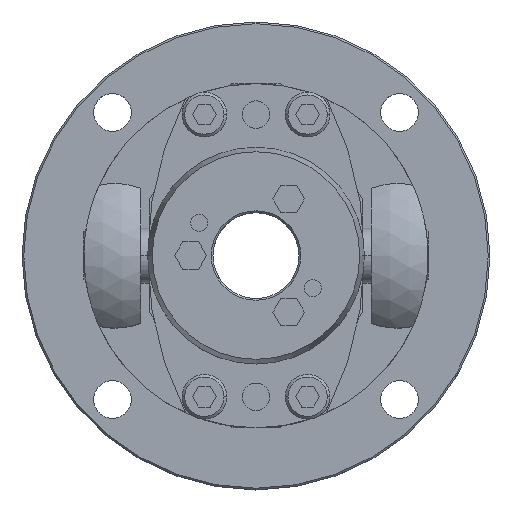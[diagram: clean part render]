
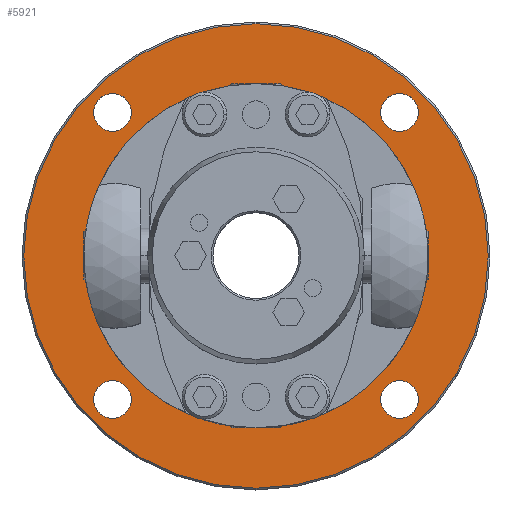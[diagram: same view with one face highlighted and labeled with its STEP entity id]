
A CAD part, top view. The second image highlights one B-rep face of the part: STEP entity #5921.
In plain terms, the highlighted planar face has unit normal (0, 0, 1).
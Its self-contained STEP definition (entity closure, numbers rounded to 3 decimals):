
#1040=CARTESIAN_POINT('',(0.,50.,-20.0));
#1041=VERTEX_POINT('',#1040);
#1157=CARTESIAN_POINT('',(0.,-50.,-20.0));
#1158=VERTEX_POINT('',#1157);
#1165=CARTESIAN_POINT('',(0.0,0.,-20.0));
#1166=DIRECTION('',(0.0,0.0,-1.0));
#1167=DIRECTION('',(0.0,1.0,0.0));
#1168=AXIS2_PLACEMENT_3D('',#1165,#1166,#1167);
#1169=CIRCLE('',#1168,50.0);
#1170=EDGE_CURVE('',#1041,#1158,#1169,.T.);
#1357=CARTESIAN_POINT('',(-41.719,47.219,-20.0));
#1358=VERTEX_POINT('',#1357);
#1367=CARTESIAN_POINT('',(-41.719,36.219,-20.0));
#1368=VERTEX_POINT('',#1367);
#1369=CARTESIAN_POINT('',(-41.719,41.719,-20.0));
#1370=DIRECTION('',(0.0,0.0,-1.0));
#1371=DIRECTION('',(0.0,1.0,0.0));
#1372=AXIS2_PLACEMENT_3D('',#1369,#1370,#1371);
#1373=CIRCLE('',#1372,5.5);
#1374=EDGE_CURVE('',#1368,#1358,#1373,.T.);
#1399=CARTESIAN_POINT('',(-41.719,-36.219,-20.0));
#1400=VERTEX_POINT('',#1399);
#1409=CARTESIAN_POINT('',(-41.719,-47.219,-20.0));
#1410=VERTEX_POINT('',#1409);
#1411=CARTESIAN_POINT('',(-41.719,-41.719,-20.0));
#1412=DIRECTION('',(0.0,0.0,-1.0));
#1413=DIRECTION('',(0.0,1.0,0.0));
#1414=AXIS2_PLACEMENT_3D('',#1411,#1412,#1413);
#1415=CIRCLE('',#1414,5.5);
#1416=EDGE_CURVE('',#1410,#1400,#1415,.T.);
#1441=CARTESIAN_POINT('',(41.719,-36.219,-20.0));
#1442=VERTEX_POINT('',#1441);
#1451=CARTESIAN_POINT('',(41.719,-47.219,-20.0));
#1452=VERTEX_POINT('',#1451);
#1453=CARTESIAN_POINT('',(41.719,-41.719,-20.0));
#1454=DIRECTION('',(0.0,0.0,-1.0));
#1455=DIRECTION('',(0.0,1.0,0.0));
#1456=AXIS2_PLACEMENT_3D('',#1453,#1454,#1455);
#1457=CIRCLE('',#1456,5.5);
#1458=EDGE_CURVE('',#1452,#1442,#1457,.T.);
#1483=CARTESIAN_POINT('',(41.719,47.219,-20.0));
#1484=VERTEX_POINT('',#1483);
#1493=CARTESIAN_POINT('',(41.719,36.219,-20.0));
#1494=VERTEX_POINT('',#1493);
#1495=CARTESIAN_POINT('',(41.719,41.719,-20.0));
#1496=DIRECTION('',(0.0,0.0,-1.0));
#1497=DIRECTION('',(0.0,1.0,0.0));
#1498=AXIS2_PLACEMENT_3D('',#1495,#1496,#1497);
#1499=CIRCLE('',#1498,5.5);
#1500=EDGE_CURVE('',#1494,#1484,#1499,.T.);
#2105=CARTESIAN_POINT('',(0.,-67.5,-20.0));
#2106=VERTEX_POINT('',#2105);
#2115=CARTESIAN_POINT('',(0.,67.5,-20.0));
#2116=VERTEX_POINT('',#2115);
#2117=CARTESIAN_POINT('',(0.0,0.,-20.0));
#2118=DIRECTION('',(0.0,0.0,-1.0));
#2119=DIRECTION('',(0.0,-1.0,0.0));
#2120=AXIS2_PLACEMENT_3D('',#2117,#2118,#2119);
#2121=CIRCLE('',#2120,67.5);
#2122=EDGE_CURVE('',#2106,#2116,#2121,.T.);
#5852=CARTESIAN_POINT('',(0.0,0.,-20.0));
#5853=DIRECTION('',(0.0,0.0,-1.0));
#5854=DIRECTION('',(0.0,-1.0,0.0));
#5855=AXIS2_PLACEMENT_3D('',#5852,#5853,#5854);
#5856=CIRCLE('',#5855,67.5);
#5857=EDGE_CURVE('',#2116,#2106,#5856,.T.);
#5862=CARTESIAN_POINT('',(0.,6.182,-20.0));
#5863=DIRECTION('',(0.0,0.0,1.0));
#5864=DIRECTION('',(0.0,1.0,0.0));
#5865=AXIS2_PLACEMENT_3D('',#5862,#5863,#5864);
#5866=PLANE('',#5865);
#5867=ORIENTED_EDGE('',*,*,#5857,.F.);
#5868=ORIENTED_EDGE('',*,*,#2122,.F.);
#5869=EDGE_LOOP('',(#5867,#5868));
#5870=FACE_OUTER_BOUND('',#5869,.T.);
#5871=CARTESIAN_POINT('',(0.0,0.,-20.0));
#5872=DIRECTION('',(0.0,0.0,-1.0));
#5873=DIRECTION('',(0.0,1.0,0.0));
#5874=AXIS2_PLACEMENT_3D('',#5871,#5872,#5873);
#5875=CIRCLE('',#5874,50.0);
#5876=EDGE_CURVE('',#1158,#1041,#5875,.T.);
#5877=ORIENTED_EDGE('',*,*,#5876,.T.);
#5878=ORIENTED_EDGE('',*,*,#1170,.T.);
#5879=EDGE_LOOP('',(#5877,#5878));
#5880=FACE_BOUND('',#5879,.T.);
#5881=ORIENTED_EDGE('',*,*,#1374,.T.);
#5882=CARTESIAN_POINT('',(-41.719,41.719,-20.0));
#5883=DIRECTION('',(0.0,0.0,-1.0));
#5884=DIRECTION('',(0.0,1.0,0.0));
#5885=AXIS2_PLACEMENT_3D('',#5882,#5883,#5884);
#5886=CIRCLE('',#5885,5.5);
#5887=EDGE_CURVE('',#1358,#1368,#5886,.T.);
#5888=ORIENTED_EDGE('',*,*,#5887,.T.);
#5889=EDGE_LOOP('',(#5881,#5888));
#5890=FACE_BOUND('',#5889,.T.);
#5891=ORIENTED_EDGE('',*,*,#1416,.T.);
#5892=CARTESIAN_POINT('',(-41.719,-41.719,-20.0));
#5893=DIRECTION('',(0.0,0.0,-1.0));
#5894=DIRECTION('',(0.0,1.0,0.0));
#5895=AXIS2_PLACEMENT_3D('',#5892,#5893,#5894);
#5896=CIRCLE('',#5895,5.5);
#5897=EDGE_CURVE('',#1400,#1410,#5896,.T.);
#5898=ORIENTED_EDGE('',*,*,#5897,.T.);
#5899=EDGE_LOOP('',(#5891,#5898));
#5900=FACE_BOUND('',#5899,.T.);
#5901=ORIENTED_EDGE('',*,*,#1458,.T.);
#5902=CARTESIAN_POINT('',(41.719,-41.719,-20.0));
#5903=DIRECTION('',(0.0,0.0,-1.0));
#5904=DIRECTION('',(0.0,1.0,0.0));
#5905=AXIS2_PLACEMENT_3D('',#5902,#5903,#5904);
#5906=CIRCLE('',#5905,5.5);
#5907=EDGE_CURVE('',#1442,#1452,#5906,.T.);
#5908=ORIENTED_EDGE('',*,*,#5907,.T.);
#5909=EDGE_LOOP('',(#5901,#5908));
#5910=FACE_BOUND('',#5909,.T.);
#5911=ORIENTED_EDGE('',*,*,#1500,.T.);
#5912=CARTESIAN_POINT('',(41.719,41.719,-20.0));
#5913=DIRECTION('',(0.0,0.0,-1.0));
#5914=DIRECTION('',(0.0,1.0,0.0));
#5915=AXIS2_PLACEMENT_3D('',#5912,#5913,#5914);
#5916=CIRCLE('',#5915,5.5);
#5917=EDGE_CURVE('',#1484,#1494,#5916,.T.);
#5918=ORIENTED_EDGE('',*,*,#5917,.T.);
#5919=EDGE_LOOP('',(#5911,#5918));
#5920=FACE_BOUND('',#5919,.T.);
#5921=ADVANCED_FACE('',(#5870,#5880,#5890,#5900,#5910,#5920),#5866,.T.);
